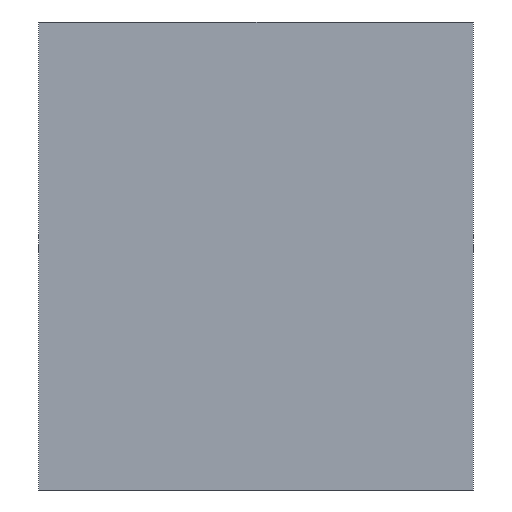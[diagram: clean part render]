
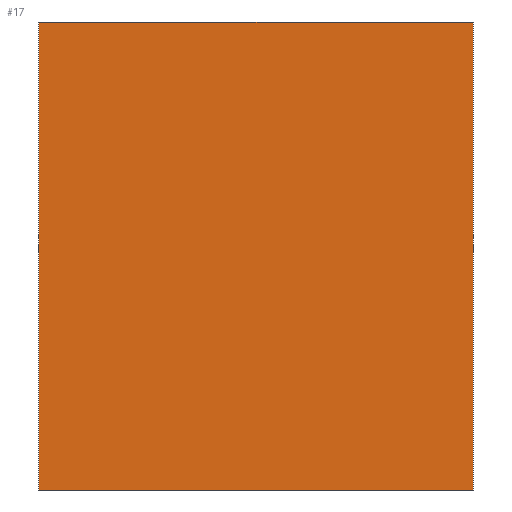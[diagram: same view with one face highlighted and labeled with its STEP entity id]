
A CAD part, left-side view. The second image highlights one B-rep face of the part: STEP entity #17.
In plain terms, the highlighted planar face has unit normal (-1, 0, 0).
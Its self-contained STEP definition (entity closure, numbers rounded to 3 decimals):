
#17 = ADVANCED_FACE('',(#18),#32,.F.);
#18 = FACE_BOUND('',#19,.F.);
#19 = EDGE_LOOP('',(#20,#55,#83,#111));
#20 = ORIENTED_EDGE('',*,*,#21,.F.);
#21 = EDGE_CURVE('',#22,#24,#26,.T.);
#22 = VERTEX_POINT('',#23);
#23 = CARTESIAN_POINT('',(-37.5,232.,70.));
#24 = VERTEX_POINT('',#25);
#25 = CARTESIAN_POINT('',(-37.5,232.,98.));
#26 = SURFACE_CURVE('',#27,(#31,#43),.PCURVE_S1.);
#27 = LINE('',#28,#29);
#28 = CARTESIAN_POINT('',(-37.5,232.,70.));
#29 = VECTOR('',#30,1.);
#30 = DIRECTION('',(0.,0.,1.));
#31 = PCURVE('',#32,#37);
#32 = PLANE('',#33);
#33 = AXIS2_PLACEMENT_3D('',#34,#35,#36);
#34 = CARTESIAN_POINT('',(-37.5,232.,70.));
#35 = DIRECTION('',(1.,0.,-0.));
#36 = DIRECTION('',(0.,0.,1.));
#37 = DEFINITIONAL_REPRESENTATION('',(#38),#42);
#38 = LINE('',#39,#40);
#39 = CARTESIAN_POINT('',(0.,0.));
#40 = VECTOR('',#41,1.);
#41 = DIRECTION('',(1.,0.));
#42 = ( GEOMETRIC_REPRESENTATION_CONTEXT(2) 
PARAMETRIC_REPRESENTATION_CONTEXT() REPRESENTATION_CONTEXT('2D SPACE',''
  ) );
#43 = PCURVE('',#44,#49);
#44 = PLANE('',#45);
#45 = AXIS2_PLACEMENT_3D('',#46,#47,#48);
#46 = CARTESIAN_POINT('',(-37.5,232.,70.));
#47 = DIRECTION('',(-0.,1.,0.));
#48 = DIRECTION('',(0.,0.,1.));
#49 = DEFINITIONAL_REPRESENTATION('',(#50),#54);
#50 = LINE('',#51,#52);
#51 = CARTESIAN_POINT('',(0.,0.));
#52 = VECTOR('',#53,1.);
#53 = DIRECTION('',(1.,0.));
#54 = ( GEOMETRIC_REPRESENTATION_CONTEXT(2) 
PARAMETRIC_REPRESENTATION_CONTEXT() REPRESENTATION_CONTEXT('2D SPACE',''
  ) );
#55 = ORIENTED_EDGE('',*,*,#56,.T.);
#56 = EDGE_CURVE('',#22,#57,#59,.T.);
#57 = VERTEX_POINT('',#58);
#58 = CARTESIAN_POINT('',(-37.5,258.,70.));
#59 = SURFACE_CURVE('',#60,(#64,#71),.PCURVE_S1.);
#60 = LINE('',#61,#62);
#61 = CARTESIAN_POINT('',(-37.5,232.,70.));
#62 = VECTOR('',#63,1.);
#63 = DIRECTION('',(-0.,1.,0.));
#64 = PCURVE('',#32,#65);
#65 = DEFINITIONAL_REPRESENTATION('',(#66),#70);
#66 = LINE('',#67,#68);
#67 = CARTESIAN_POINT('',(0.,0.));
#68 = VECTOR('',#69,1.);
#69 = DIRECTION('',(0.,-1.));
#70 = ( GEOMETRIC_REPRESENTATION_CONTEXT(2) 
PARAMETRIC_REPRESENTATION_CONTEXT() REPRESENTATION_CONTEXT('2D SPACE',''
  ) );
#71 = PCURVE('',#72,#77);
#72 = PLANE('',#73);
#73 = AXIS2_PLACEMENT_3D('',#74,#75,#76);
#74 = CARTESIAN_POINT('',(-37.5,232.,70.));
#75 = DIRECTION('',(0.,0.,1.));
#76 = DIRECTION('',(1.,0.,-0.));
#77 = DEFINITIONAL_REPRESENTATION('',(#78),#82);
#78 = LINE('',#79,#80);
#79 = CARTESIAN_POINT('',(0.,0.));
#80 = VECTOR('',#81,1.);
#81 = DIRECTION('',(0.,1.));
#82 = ( GEOMETRIC_REPRESENTATION_CONTEXT(2) 
PARAMETRIC_REPRESENTATION_CONTEXT() REPRESENTATION_CONTEXT('2D SPACE',''
  ) );
#83 = ORIENTED_EDGE('',*,*,#84,.T.);
#84 = EDGE_CURVE('',#57,#85,#87,.T.);
#85 = VERTEX_POINT('',#86);
#86 = CARTESIAN_POINT('',(-37.5,258.,98.));
#87 = SURFACE_CURVE('',#88,(#92,#99),.PCURVE_S1.);
#88 = LINE('',#89,#90);
#89 = CARTESIAN_POINT('',(-37.5,258.,70.));
#90 = VECTOR('',#91,1.);
#91 = DIRECTION('',(0.,0.,1.));
#92 = PCURVE('',#32,#93);
#93 = DEFINITIONAL_REPRESENTATION('',(#94),#98);
#94 = LINE('',#95,#96);
#95 = CARTESIAN_POINT('',(0.,-26.));
#96 = VECTOR('',#97,1.);
#97 = DIRECTION('',(1.,0.));
#98 = ( GEOMETRIC_REPRESENTATION_CONTEXT(2) 
PARAMETRIC_REPRESENTATION_CONTEXT() REPRESENTATION_CONTEXT('2D SPACE',''
  ) );
#99 = PCURVE('',#100,#105);
#100 = PLANE('',#101);
#101 = AXIS2_PLACEMENT_3D('',#102,#103,#104);
#102 = CARTESIAN_POINT('',(-37.5,258.,70.));
#103 = DIRECTION('',(-0.,1.,0.));
#104 = DIRECTION('',(0.,0.,1.));
#105 = DEFINITIONAL_REPRESENTATION('',(#106),#110);
#106 = LINE('',#107,#108);
#107 = CARTESIAN_POINT('',(0.,0.));
#108 = VECTOR('',#109,1.);
#109 = DIRECTION('',(1.,0.));
#110 = ( GEOMETRIC_REPRESENTATION_CONTEXT(2) 
PARAMETRIC_REPRESENTATION_CONTEXT() REPRESENTATION_CONTEXT('2D SPACE',''
  ) );
#111 = ORIENTED_EDGE('',*,*,#112,.F.);
#112 = EDGE_CURVE('',#24,#85,#113,.T.);
#113 = SURFACE_CURVE('',#114,(#118,#125),.PCURVE_S1.);
#114 = LINE('',#115,#116);
#115 = CARTESIAN_POINT('',(-37.5,232.,98.));
#116 = VECTOR('',#117,1.);
#117 = DIRECTION('',(-0.,1.,0.));
#118 = PCURVE('',#32,#119);
#119 = DEFINITIONAL_REPRESENTATION('',(#120),#124);
#120 = LINE('',#121,#122);
#121 = CARTESIAN_POINT('',(28.,0.));
#122 = VECTOR('',#123,1.);
#123 = DIRECTION('',(0.,-1.));
#124 = ( GEOMETRIC_REPRESENTATION_CONTEXT(2) 
PARAMETRIC_REPRESENTATION_CONTEXT() REPRESENTATION_CONTEXT('2D SPACE',''
  ) );
#125 = PCURVE('',#126,#131);
#126 = PLANE('',#127);
#127 = AXIS2_PLACEMENT_3D('',#128,#129,#130);
#128 = CARTESIAN_POINT('',(-37.5,232.,98.));
#129 = DIRECTION('',(0.,0.,1.));
#130 = DIRECTION('',(1.,0.,-0.));
#131 = DEFINITIONAL_REPRESENTATION('',(#132),#136);
#132 = LINE('',#133,#134);
#133 = CARTESIAN_POINT('',(0.,0.));
#134 = VECTOR('',#135,1.);
#135 = DIRECTION('',(0.,1.));
#136 = ( GEOMETRIC_REPRESENTATION_CONTEXT(2) 
PARAMETRIC_REPRESENTATION_CONTEXT() REPRESENTATION_CONTEXT('2D SPACE',''
  ) );
